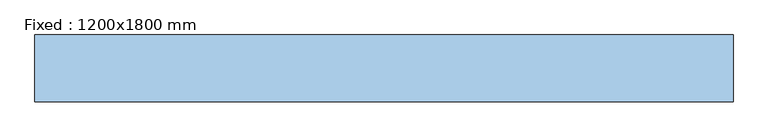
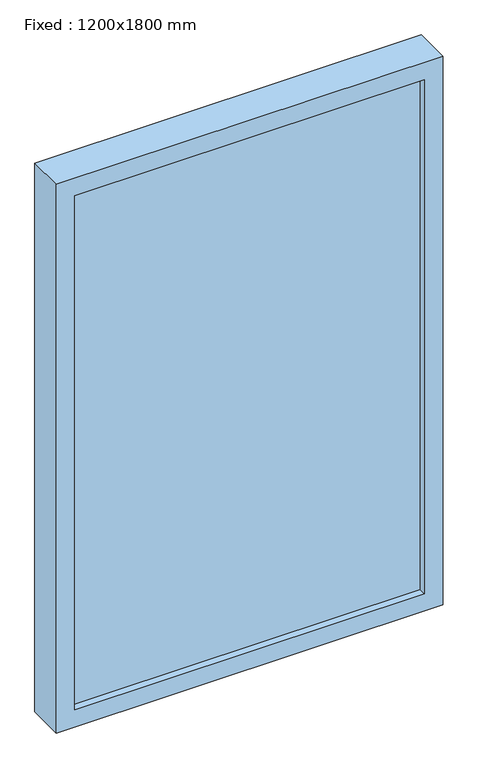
"""IFC4 building model written with IfcOpenShell, lengths in millimetres: window geometry, Fixed : 1200x1800 mm."""

from ifc_helpers import new_model, si_unit, frame, origin, place, context, project, spatial, polyline, outline, extrude, source, transform, mapped, element, save


def fixed_1200x1800_mm_9139810d(model_context):
    return source(origin(), model_context, "Body", "SweptSolid", [
        extrude(outline(polyline([(2600.0, 600.0), (2600.0, -600.0), (800.0, -600.0), (800.0, 600.0), (2600.0, 600.0)]), holes=[polyline([(2543.0, 543.0), (857.0, 543.0), (857.0, -543.0), (2543.0, -543.0), (2543.0, 543.0)])]), frame((0.0, -190.0, 0.0), z_axis=(0.0, 1.0, 0.0), x_axis=(0.0, 0.0, 1.0)), (0.0, 0.0, 1.0), 115.0),
        extrude(outline(polyline([(-543.0, -168.0), (-543.0, -140.0), (543.0, -140.0), (543.0, -168.0), (-543.0, -168.0)])), frame((0.0, 0.0, 857.0), z_axis=(0.0, 0.0, 1.0), x_axis=(1.0, 0.0, 0.0)), (0.0, 0.0, 1.0), 1686.0),
    ])


if __name__ == "__main__":
    model = new_model("IFC4")
    model_context = context("Model", 3, world=origin())
    ifc_project = project(units=[si_unit("LENGTHUNIT", "METRE", prefix="MILLI")], contexts=[model_context])
    site = spatial("IfcSite", under=ifc_project)
    building = spatial("IfcBuilding", under=site)
    placement = place(None, origin())
    fixed_1200x1800_mm_shape = fixed_1200x1800_mm_9139810d(model_context)
    element("IfcWindow", 1, ObjectType="Fixed : 1200x1800 mm", at=placement, inside=building, context=model_context, shape_type="MappedRepresentation", body=[
        mapped(fixed_1200x1800_mm_shape, transform((0.0, 0.0, 0.0), x_axis=(1.0, 0.0, 0.0), y_axis=(0.0, 1.0, 0.0), z_axis=(0.0, 0.0, 1.0))),
    ])
    save(model, "model.ifc")
